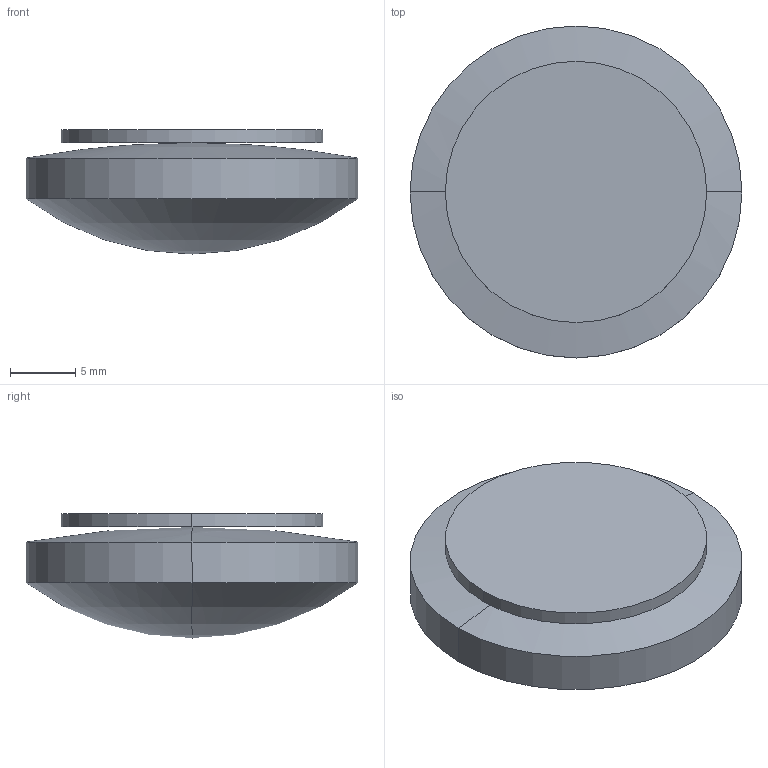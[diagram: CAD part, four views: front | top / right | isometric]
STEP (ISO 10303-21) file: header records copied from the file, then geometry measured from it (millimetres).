
FILE_DESCRIPTION(('STEP AP214'),'1');
FILE_NAME('LLR-25-40.STEP','2020-03-09T17:41:55',(' '),(' '),'Spatial InterOp 3D',' ',' ');
FILE_SCHEMA(('AUTOMOTIVE_DESIGN { 1 0 10303 214 1 1 1 1 }'));
Length unit declared in the file: millimetre
Products named in the file (1): 1
Bounding box: 25.4 x 25.4 x 9.5 mm (x, y, z)
Volume: 3299 mm3; surface area: 2014 mm2
Topology: 2 solids, 2 shells, 10 faces, 20 edges, 10 vertices
Faces by surface type: sphere 4, cylinder 4, plane 2
Entity records: 255 total; most frequent: DIRECTION 52, CARTESIAN_POINT 38, ORIENTED_EDGE 32, AXIS2_PLACEMENT_3D 24, EDGE_CURVE 16, CIRCLE 12, ADVANCED_FACE 10, FACE_OUTER_BOUND 10
